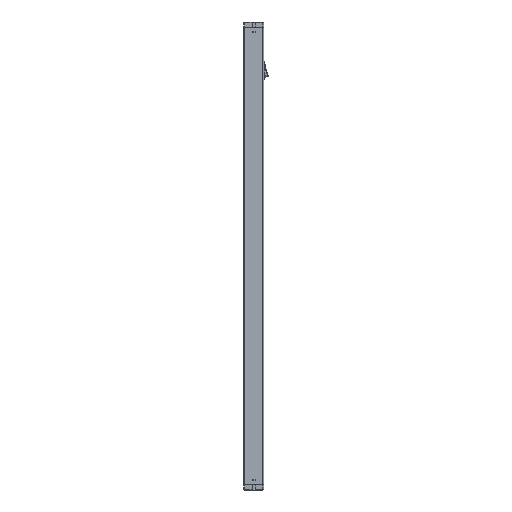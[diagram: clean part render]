
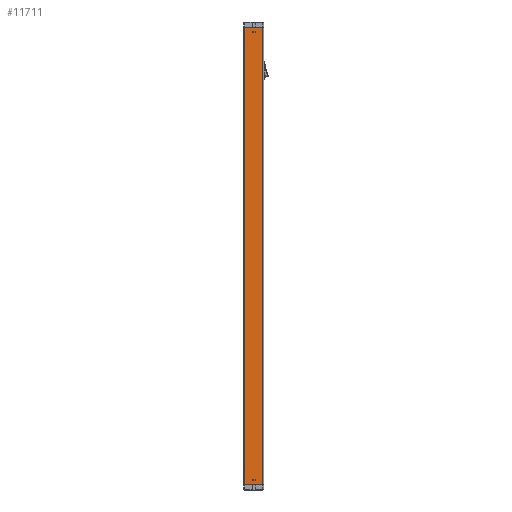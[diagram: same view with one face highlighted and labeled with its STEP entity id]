
A CAD part, front view. The second image highlights one B-rep face of the part: STEP entity #11711.
In plain terms, the highlighted planar face has unit normal (0, -1, 0).
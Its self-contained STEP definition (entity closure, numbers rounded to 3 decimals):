
#511 = VERTEX_POINT ( 'NONE', #7870 ) ;
#620 = LINE ( 'NONE', #12722, #10738 ) ;
#1016 = EDGE_CURVE ( 'NONE', #7178, #511, #620, .T. ) ;
#1480 = CARTESIAN_POINT ( 'NONE',  ( 10.4, 0., -263. ) ) ;
#1661 = DIRECTION ( 'NONE',  ( 0., 0., -1. ) ) ;
#1678 = DIRECTION ( 'NONE',  ( -1., 0., 0. ) ) ;
#1881 = VERTEX_POINT ( 'NONE', #12591 ) ;
#2486 = DIRECTION ( 'NONE',  ( 0., 0., 1. ) ) ;
#2742 = CARTESIAN_POINT ( 'NONE',  ( -11.4, 0., 263. ) ) ;
#2966 = FACE_OUTER_BOUND ( 'NONE', #3281, .T. ) ;
#2999 = VECTOR ( 'NONE', #1678, 1000. ) ;
#3052 = ORIENTED_EDGE ( 'NONE', *, *, #5649, .T. ) ;
#3281 = EDGE_LOOP ( 'NONE', ( #5071, #3052, #12401, #12072 ) ) ;
#3517 = PLANE ( 'NONE',  #10563 ) ;
#3649 = DIRECTION ( 'NONE',  ( 0., -1., 0. ) ) ;
#3883 = EDGE_CURVE ( 'NONE', #1881, #4406, #12338, .T. ) ;
#4406 = VERTEX_POINT ( 'NONE', #12729 ) ;
#4509 = LINE ( 'NONE', #5727, #5152 ) ;
#4740 = CARTESIAN_POINT ( 'NONE',  ( -11.4, 0., -263. ) ) ;
#5071 = ORIENTED_EDGE ( 'NONE', *, *, #1016, .T. ) ;
#5152 = VECTOR ( 'NONE', #7745, 1000. ) ;
#5649 = EDGE_CURVE ( 'NONE', #511, #1881, #12228, .T. ) ;
#5727 = CARTESIAN_POINT ( 'NONE',  ( -10.4, 0., -263. ) ) ;
#7015 = EDGE_CURVE ( 'NONE', #4406, #7178, #4509, .T. ) ;
#7178 = VERTEX_POINT ( 'NONE', #9317 ) ;
#7745 = DIRECTION ( 'NONE',  ( 0., 0., -1. ) ) ;
#7870 = CARTESIAN_POINT ( 'NONE',  ( 10.4, 0., -263. ) ) ;
#9317 = CARTESIAN_POINT ( 'NONE',  ( -10.4, 0., -263. ) ) ;
#9647 = DIRECTION ( 'NONE',  ( 1., 0., 0. ) ) ;
#9842 = VECTOR ( 'NONE', #2486, 1000. ) ;
#10563 = AXIS2_PLACEMENT_3D ( 'NONE', #4740, #3649, #1661 ) ;
#10738 = VECTOR ( 'NONE', #9647, 1000. ) ;
#11711 = ADVANCED_FACE ( 'NONE', ( #2966 ), #3517, .T. ) ;
#12072 = ORIENTED_EDGE ( 'NONE', *, *, #7015, .T. ) ;
#12228 = LINE ( 'NONE', #1480, #9842 ) ;
#12338 = LINE ( 'NONE', #2742, #2999 ) ;
#12401 = ORIENTED_EDGE ( 'NONE', *, *, #3883, .T. ) ;
#12591 = CARTESIAN_POINT ( 'NONE',  ( 10.4, 0., 263. ) ) ;
#12722 = CARTESIAN_POINT ( 'NONE',  ( -11.4, 0., -263. ) ) ;
#12729 = CARTESIAN_POINT ( 'NONE',  ( -10.4, 0., 263. ) ) ;
